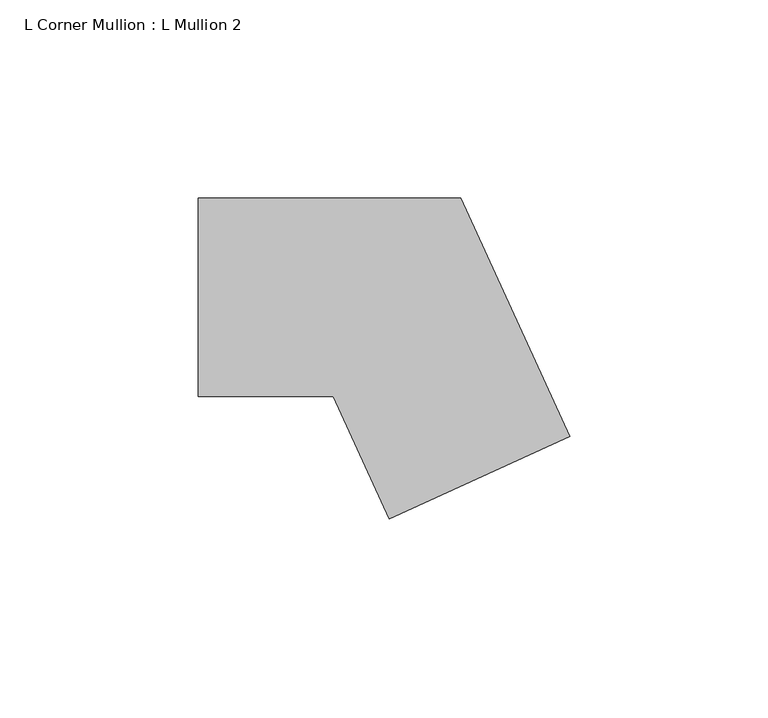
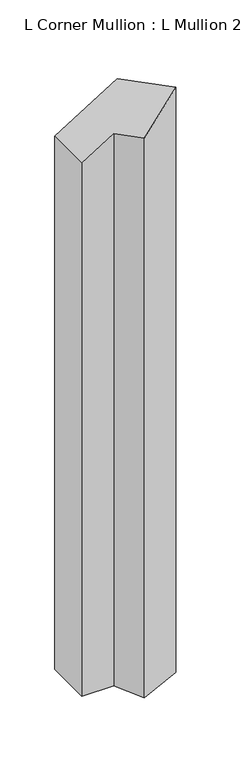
"""IFC4 building model written with IfcOpenShell, lengths in millimetres: member geometry, L Corner Mullion : L Mullion 2."""

import ifcopenshell
import ifcopenshell.guid

model = None  # the IFC model being written
_history = None  # IfcOwnerHistory: only IFC2X3 demands one
_inside = {}  # id of a spatial element -> (the spatial element, [elements in it])
_under = {}  # id of a project, library or spatial element -> (it, [spatial elements below it])
_declared = {}  # id of a project -> (the project, [libraries it declares])
_typed = {}  # id of a type object -> (the type object, [elements of that type])
_made_of = {}  # id of a material, layer set ... -> (it, [elements and type objects made of it])


def new_model(schema):
    """Start an empty IFC model of exactly this schema.

    Asked for "IFC4X3", IfcOpenShell would pick the latest addendum, in which some entities
    have other attributes; the version numbers below select the first issue.
    IFC2X3 requires an IfcOwnerHistory on every rooted entity: one is made here for all.
    """
    global model, _history
    if schema == "IFC4X3":
        model = ifcopenshell.file(schema_version=(4, 3, 0, 0))
    else:
        model = ifcopenshell.file(schema=schema)
    _inside.clear()
    _under.clear()
    _declared.clear()
    _typed.clear()
    _made_of.clear()
    _history = None
    if model.schema == "IFC2X3":
        org = make("IfcOrganization", Name="unknown")
        user = make(
            "IfcPersonAndOrganization",
            ThePerson=make("IfcPerson", FamilyName="unknown"),
            TheOrganization=org,
        )
        app = make(
            "IfcApplication",
            ApplicationDeveloper=org,
            Version="unknown",
            ApplicationFullName="unknown",
            ApplicationIdentifier="unknown",
        )
        _history = make(
            "IfcOwnerHistory",
            OwningUser=user,
            OwningApplication=app,
            ChangeAction="ADDED",
            CreationDate=0,
        )
    return model


def make(cls, **values):
    """One entity of the class cls with the attributes given. An attribute that is None is left unset."""
    return model.create_entity(
        cls, **{name: value for name, value in values.items() if value is not None}
    )


def rooted(cls, **values):
    """An entity with a GlobalId (a new one), such as an element, a storey or a relation."""
    return make(cls, GlobalId=ifcopenshell.guid.new(), OwnerHistory=_history, **values)


def si_unit(unit_type, name, prefix=None):
    """IfcSIUnit, for example si_unit("LENGTHUNIT", "METRE", prefix="MILLI")."""
    return make("IfcSIUnit", UnitType=unit_type, Prefix=prefix, Name=name)


def assignment(units):
    """IfcUnitAssignment: the units of a project."""
    return None if units is None else make("IfcUnitAssignment", Units=units)


def point(xyz):
    """IfcCartesianPoint."""
    return None if xyz is None else make("IfcCartesianPoint", Coordinates=xyz)


def direction(xyz):
    """IfcDirection."""
    return None if xyz is None else make("IfcDirection", DirectionRatios=xyz)


def frame(location, z_axis=None, x_axis=None):
    """IfcAxis2Placement3D, a coordinate frame: its origin and axes. An axis left out is left unset."""
    return make(
        "IfcAxis2Placement3D",
        Location=point(location),
        Axis=direction(z_axis),
        RefDirection=direction(x_axis),
    )


def origin():
    """The frame at (0, 0, 0) with its axes left unset."""
    return frame((0.0, 0.0, 0.0))


def place(relative_to, where):
    """IfcLocalPlacement: puts the frame where relative to a parent placement (None: the world)."""
    return make(
        "IfcLocalPlacement", PlacementRelTo=relative_to, RelativePlacement=where
    )


def context(
    kind, dimensions, precision=None, world=None, true_north=None, identifier=None
):
    """IfcGeometricRepresentationContext, for example the 3D "Model" context."""
    return make(
        "IfcGeometricRepresentationContext",
        ContextIdentifier=identifier,
        ContextType=kind,
        CoordinateSpaceDimension=dimensions,
        Precision=precision,
        WorldCoordinateSystem=world,
        TrueNorth=true_north,
    )


def project(units=None, contexts=None):
    """IfcProject with its units and contexts."""
    return rooted(
        "IfcProject",
        Name="project",
        RepresentationContexts=contexts,
        UnitsInContext=assignment(units),
    )


def spatial(cls, under=None, at=None, **own):
    """A site, building, storey or space (cls), placed at a placement, below another one or the project."""
    s = rooted(cls, ObjectPlacement=at, **own)
    if under is not None:
        _under.setdefault(under.id(), (under, []))[1].append(s)
    return s


def faces_of(points, faces, orient=None, outer=None):
    """IfcFace entities. A face is a list of loops; a loop is a list of indices into points, from 0.

    orient and outer hold one flag for each loop. By default every Orientation is true, the
    first loop of a face is its IfcFaceOuterBound and the others are IfcFaceBound.
    """
    made = []
    for i, loops in enumerate(faces):
        bounds = []
        for j, loop in enumerate(loops):
            is_outer = j == 0 if outer is None else outer[i][j]
            bounds.append(
                make(
                    "IfcFaceOuterBound" if is_outer else "IfcFaceBound",
                    Bound=make("IfcPolyLoop", Polygon=[points[k] for k in loop]),
                    Orientation=True if orient is None else orient[i][j],
                )
            )
        made.append(make("IfcFace", Bounds=bounds))
    return made


def faceted_brep(points, faces, orient=None, outer=None, voids=None):
    """IfcFacetedBrep: a solid bounded by flat faces; with voids (closed shells), ...WithVoids."""
    shared = [point(p) for p in points]
    hull = make("IfcClosedShell", CfsFaces=faces_of(shared, faces, orient, outer))
    if voids is None:
        return make("IfcFacetedBrep", Outer=hull)
    return make(
        "IfcFacetedBrepWithVoids",
        Outer=hull,
        Voids=[
            make(cls, CfsFaces=faces_of(shared, fs, o, b)) for cls, fs, o, b in voids
        ],
    )


def shape(context_of_items, identifier, shape_type, items):
    """IfcShapeRepresentation: the items that make up one representation, for example the "Body"."""
    return make(
        "IfcShapeRepresentation",
        ContextOfItems=context_of_items,
        RepresentationIdentifier=identifier,
        RepresentationType=shape_type,
        Items=items,
    )


def source(mapping_origin, context_of_items, identifier, shape_type, items):
    """IfcRepresentationMap: a shape defined once, which mapped items show again and again."""
    return make(
        "IfcRepresentationMap",
        MappingOrigin=mapping_origin,
        MappedRepresentation=shape(context_of_items, identifier, shape_type, items),
    )


def transform(
    local_origin,
    x_axis=None,
    y_axis=None,
    z_axis=None,
    scale=None,
    scale2=None,
    scale3=None,
    uniform=True,
):
    """IfcCartesianTransformationOperator3D, or its non-uniform kind. x_axis, y_axis, z_axis: its Axis1, 2, 3."""
    if uniform:
        return make(
            "IfcCartesianTransformationOperator3D",
            Axis1=direction(x_axis),
            Axis2=direction(y_axis),
            LocalOrigin=point(local_origin),
            Scale=scale,
            Axis3=direction(z_axis),
        )
    return make(
        "IfcCartesianTransformationOperator3DnonUniform",
        Axis1=direction(x_axis),
        Axis2=direction(y_axis),
        LocalOrigin=point(local_origin),
        Scale=scale,
        Axis3=direction(z_axis),
        Scale2=scale2,
        Scale3=scale3,
    )


def mapped(mapping_source, mapping_target):
    """IfcMappedItem: shows the shape of a source again, moved by a transform."""
    return make(
        "IfcMappedItem", MappingSource=mapping_source, MappingTarget=mapping_target
    )


def made_of(thing, what):
    """Note that an element or type object is made of a material, layer set ...; save() writes the relation."""
    if what is not None:
        _made_of.setdefault(what.id(), (what, []))[1].append(thing)
    return thing


def element(
    cls,
    number,
    at=None,
    inside=None,
    cuts=None,
    type_object=None,
    material=None,
    context=None,
    identifier="Body",
    shape_type=None,
    held_by="IfcProductDefinitionShape",
    body=None,
    shapes=None,
    **own,
):
    """One element of the class cls, such as IfcWall. Its Tag is "e" and its number.

    at: its placement. inside: the storey or other place that contains it. cuts: it is an
    opening in that element (IfcRelVoidsElement). A single representation is given by context,
    identifier, shape_type and body (its items); several are given by shapes. held_by: the class
    of the entity that holds the representations. save() writes the other relations.
    """
    e = rooted(cls, Tag="e%d" % number, ObjectPlacement=at, **own)
    if body is not None:
        shapes = [shape(context, identifier, shape_type, body)]
    if shapes is not None:
        e.Representation = make(held_by, Representations=shapes)
    if inside is not None:
        _inside.setdefault(inside.id(), (inside, []))[1].append(e)
    if cuts is not None:
        rooted(
            "IfcRelVoidsElement", RelatingBuildingElement=cuts, RelatedOpeningElement=e
        )
    if type_object is not None:
        _typed.setdefault(type_object.id(), (type_object, []))[1].append(e)
    return made_of(e, material)


def aggregate(whole, parts):
    """IfcRelAggregates: a whole, such as a stair, and the parts it consists of."""
    return rooted("IfcRelAggregates", RelatingObject=whole, RelatedObjects=parts)


def save(model, path):
    """Write the relations noted so far, then the file.

    IfcRelAggregates (storeys below a building ...), IfcRelContainedInSpatialStructure (elements
    in a storey), IfcRelDefinesByType, IfcRelAssociatesMaterial and IfcRelDeclares: one each for
    every whole, place, type object, material and project.
    """
    for whole, parts in _under.values():
        aggregate(whole, parts)
    for where, things in _inside.values():
        rooted(
            "IfcRelContainedInSpatialStructure",
            RelatedElements=things,
            RelatingStructure=where,
        )
    for kind, things in _typed.values():
        rooted("IfcRelDefinesByType", RelatedObjects=things, RelatingType=kind)
    for what, things in _made_of.values():
        rooted("IfcRelAssociatesMaterial", RelatedObjects=things, RelatingMaterial=what)
    for by, libraries in _declared.values():
        rooted("IfcRelDeclares", RelatingContext=by, RelatedDefinitions=libraries)
    model.write(path)


def l_corner_mullion_l_mullion_2_1557705e(model_context):
    return source(origin(), model_context, "Body", "Brep", [
        faceted_brep([(-1.9250938, -55.8685423, -627.8203742), (-16.0523154, -25.0, -627.8203742), (-50.0, -25.0, -627.8203742), (-50.0, 25.0, -627.8203742), (16.0523154, 25.0, -627.8203742), (43.5397775, -35.0612004, -627.8203742), (43.5397775, -35.0612004, 27.2023578), (-1.9250938, -55.8685423, -1.2027414), (16.0523154, 25.0, 10.0290092), (-50.0, 25.0, -31.2385127), (-50.0, -25.0, -31.2385127), (-16.0523154, -25.0, -10.0290092)], [[[0, 1, 2, 3, 4, 5]], [[6, 7, 0, 5]], [[8, 6, 5, 4]], [[9, 8, 4, 3]], [[10, 9, 3, 2]], [[11, 10, 2, 1]], [[7, 11, 1, 0]], [[7, 6, 8, 9, 10, 11]]]),
    ])


if __name__ == "__main__":
    model = new_model("IFC4")
    model_context = context("Model", 3, world=origin())
    ifc_project = project(units=[si_unit("LENGTHUNIT", "METRE", prefix="MILLI")], contexts=[model_context])
    site = spatial("IfcSite", under=ifc_project)
    building = spatial("IfcBuilding", under=site)
    placement = place(None, origin())
    l_corner_mullion_l_mullion_2_shape = l_corner_mullion_l_mullion_2_1557705e(model_context)
    element("IfcMember", 1, ObjectType="L Corner Mullion : L Mullion 2", at=placement, inside=building, context=model_context, shape_type="MappedRepresentation", body=[
        mapped(l_corner_mullion_l_mullion_2_shape, transform((0.0, 0.0, 0.0), x_axis=(1.0, 0.0, 0.0), y_axis=(0.0, 1.0, 0.0), z_axis=(0.0, 0.0, 1.0))),
    ])
    save(model, "model.ifc")
